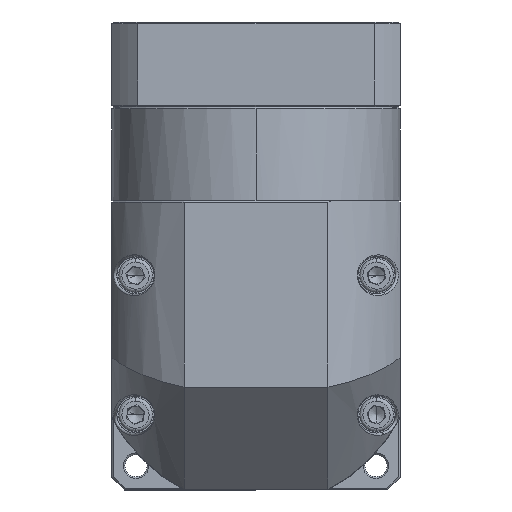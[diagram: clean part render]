
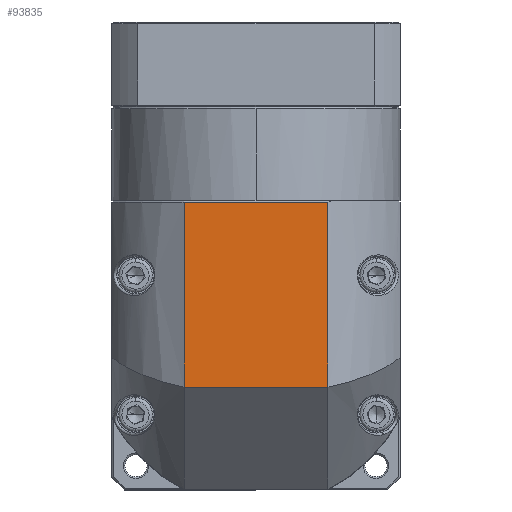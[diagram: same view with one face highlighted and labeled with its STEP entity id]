
A CAD part, top view. The second image highlights one B-rep face of the part: STEP entity #93835.
In plain terms, the highlighted planar face has unit normal (0, 0, 1).
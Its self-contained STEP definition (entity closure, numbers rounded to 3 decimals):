
#4103 = EDGE_CURVE ( 'NONE', #83458, #110370, #10708, .T. ) ;
#10708 = LINE ( 'NONE', #59280, #42069 ) ;
#10801 = EDGE_CURVE ( 'NONE', #83458, #67425, #25083, .T. ) ;
#12006 = AXIS2_PLACEMENT_3D ( 'NONE', #30363, #92868, #115433 ) ;
#18140 = EDGE_CURVE ( 'NONE', #110370, #107550, #69078, .T. ) ;
#24486 = EDGE_LOOP ( 'NONE', ( #86619, #100106, #101559, #98729 ) ) ;
#25083 = LINE ( 'NONE', #81789, #76296 ) ;
#28302 = CARTESIAN_POINT ( 'NONE',  ( -66.843, -29.047, 64.534 ) ) ;
#30363 = CARTESIAN_POINT ( 'NONE',  ( -45.63, 28.953, 64.534 ) ) ;
#34188 = FACE_OUTER_BOUND ( 'NONE', #24486, .T. ) ;
#36502 = CARTESIAN_POINT ( 'NONE',  ( -24.417, 16.453, 64.534 ) ) ;
#37087 = DIRECTION ( 'NONE',  ( 0., -1., 0. ) ) ;
#38872 = DIRECTION ( 'NONE',  ( 0., 1., 0. ) ) ;
#42069 = VECTOR ( 'NONE', #37087, 1000. ) ;
#49250 = EDGE_CURVE ( 'NONE', #107550, #67425, #72399, .T. ) ;
#52999 = CARTESIAN_POINT ( 'NONE',  ( -24.417, 70.953, 64.534 ) ) ;
#59280 = CARTESIAN_POINT ( 'NONE',  ( -24.417, -29.047, 64.534 ) ) ;
#59604 = CARTESIAN_POINT ( 'NONE',  ( -66.843, 70.953, 64.534 ) ) ;
#63961 = CARTESIAN_POINT ( 'NONE',  ( -45.63, 16.453, 64.534 ) ) ;
#65333 = DIRECTION ( 'NONE',  ( -1., 0., 0. ) ) ;
#67425 = VERTEX_POINT ( 'NONE', #59604 ) ;
#69078 = LINE ( 'NONE', #63961, #122034 ) ;
#72399 = LINE ( 'NONE', #28302, #113888 ) ;
#76296 = VECTOR ( 'NONE', #112828, 1000. ) ;
#81789 = CARTESIAN_POINT ( 'NONE',  ( -45.63, 70.953, 64.534 ) ) ;
#83458 = VERTEX_POINT ( 'NONE', #52999 ) ;
#86619 = ORIENTED_EDGE ( 'NONE', *, *, #49250, .F. ) ;
#91251 = CARTESIAN_POINT ( 'NONE',  ( -66.843, 16.453, 64.534 ) ) ;
#92868 = DIRECTION ( 'NONE',  ( 0., 0., 1. ) ) ;
#93742 = PLANE ( 'NONE',  #12006 ) ;
#93835 = ADVANCED_FACE ( 'NONE', ( #34188 ), #93742, .T. ) ;
#98729 = ORIENTED_EDGE ( 'NONE', *, *, #10801, .T. ) ;
#100106 = ORIENTED_EDGE ( 'NONE', *, *, #18140, .F. ) ;
#101559 = ORIENTED_EDGE ( 'NONE', *, *, #4103, .F. ) ;
#107550 = VERTEX_POINT ( 'NONE', #91251 ) ;
#110370 = VERTEX_POINT ( 'NONE', #36502 ) ;
#112828 = DIRECTION ( 'NONE',  ( -1., 0., 0. ) ) ;
#113888 = VECTOR ( 'NONE', #38872, 1000. ) ;
#115433 = DIRECTION ( 'NONE',  ( 0., 1., 0. ) ) ;
#122034 = VECTOR ( 'NONE', #65333, 1000. ) ;
